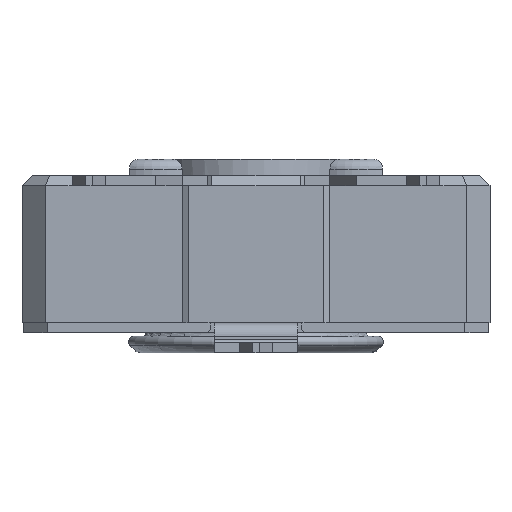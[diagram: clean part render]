
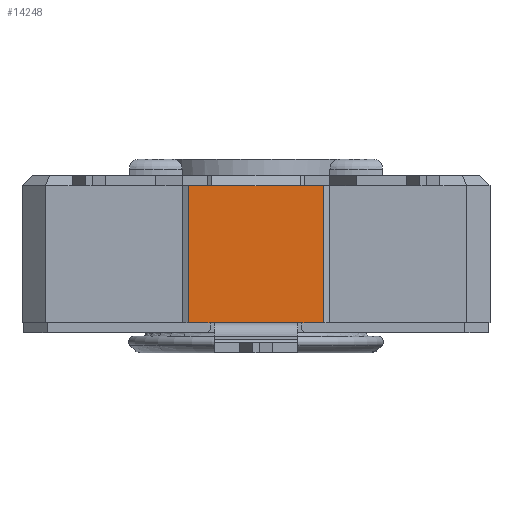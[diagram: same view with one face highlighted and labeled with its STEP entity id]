
A CAD part, front view. The second image highlights one B-rep face of the part: STEP entity #14248.
In plain terms, the highlighted planar face has unit normal (0, -1, 0).
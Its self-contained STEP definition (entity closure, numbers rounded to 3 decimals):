
#1292=FACE_OUTER_BOUND('',#2027,.T.);
#2027=EDGE_LOOP('',(#12179,#12180,#12181,#12182,#12183,#12184,#12185,#12186));
#2325=LINE('',#19730,#3881);
#2523=LINE('',#20526,#4079);
#2909=LINE('',#21491,#4465);
#2919=LINE('',#21514,#4475);
#3207=LINE('',#22433,#4763);
#3528=LINE('',#23132,#5084);
#3577=LINE('',#23234,#5133);
#3579=LINE('',#23237,#5135);
#3881=VECTOR('',#15984,10.);
#4079=VECTOR('',#16590,10.);
#4465=VECTOR('',#17292,10.);
#4475=VECTOR('',#17306,10.);
#4763=VECTOR('',#18034,10.);
#5084=VECTOR('',#18705,10.);
#5133=VECTOR('',#18852,10.);
#5135=VECTOR('',#18856,10.);
#5407=VERTEX_POINT('',#19727);
#5408=VERTEX_POINT('',#19729);
#5627=VERTEX_POINT('',#20524);
#5628=VERTEX_POINT('',#20525);
#5941=VERTEX_POINT('',#21489);
#5952=VERTEX_POINT('',#21513);
#6223=VERTEX_POINT('',#22432);
#6410=VERTEX_POINT('',#23131);
#6783=EDGE_CURVE('',#5408,#5407,#2325,.T.);
#7106=EDGE_CURVE('',#5627,#5628,#2523,.T.);
#7549=EDGE_CURVE('',#5941,#5627,#2909,.T.);
#7560=EDGE_CURVE('',#5628,#5952,#2919,.T.);
#7957=EDGE_CURVE('',#5408,#6223,#3207,.T.);
#8302=EDGE_CURVE('',#6410,#6223,#3528,.T.);
#8352=EDGE_CURVE('',#5941,#6410,#3577,.T.);
#8354=EDGE_CURVE('',#5952,#5407,#3579,.T.);
#12179=ORIENTED_EDGE('',*,*,#7957,.F.);
#12180=ORIENTED_EDGE('',*,*,#6783,.T.);
#12181=ORIENTED_EDGE('',*,*,#8354,.F.);
#12182=ORIENTED_EDGE('',*,*,#7560,.F.);
#12183=ORIENTED_EDGE('',*,*,#7106,.F.);
#12184=ORIENTED_EDGE('',*,*,#7549,.F.);
#12185=ORIENTED_EDGE('',*,*,#8352,.T.);
#12186=ORIENTED_EDGE('',*,*,#8302,.T.);
#12858=PLANE('',#15300);
#14248=ADVANCED_FACE('',(#1292),#12858,.T.);
#15300=AXIS2_PLACEMENT_3D('',#23236,#18854,#18855);
#15984=DIRECTION('',(-1.,0.,0.));
#16590=DIRECTION('',(-1.,0.,0.));
#17292=DIRECTION('',(-1.,0.,0.));
#17306=DIRECTION('',(-1.,0.,0.));
#18034=DIRECTION('',(1.,0.,0.));
#18705=DIRECTION('',(-1.,0.,0.));
#18852=DIRECTION('',(0.,0.,1.));
#18854=DIRECTION('center_axis',(0.,-1.,0.));
#18855=DIRECTION('ref_axis',(0.,0.,-1.));
#18856=DIRECTION('',(0.,0.,1.));
#19727=CARTESIAN_POINT('',(-2.027,-7.05,1.875));
#19729=CARTESIAN_POINT('',(-1.325,-7.05,1.875));
#19730=CARTESIAN_POINT('',(-0.913,-7.05,1.875));
#20524=CARTESIAN_POINT('',(1.25,-7.05,-2.225));
#20525=CARTESIAN_POINT('',(-1.25,-7.05,-2.225));
#20526=CARTESIAN_POINT('',(2.027,-7.05,-2.225));
#21489=CARTESIAN_POINT('',(2.027,-7.05,-2.225));
#21491=CARTESIAN_POINT('',(2.027,-7.05,-2.225));
#21513=CARTESIAN_POINT('',(-2.027,-7.05,-2.225));
#21514=CARTESIAN_POINT('',(2.027,-7.05,-2.225));
#22432=CARTESIAN_POINT('',(1.325,-7.05,1.875));
#22433=CARTESIAN_POINT('',(1.013,-7.05,1.875));
#23131=CARTESIAN_POINT('',(2.027,-7.05,1.875));
#23132=CARTESIAN_POINT('',(2.936,-7.05,1.875));
#23234=CARTESIAN_POINT('',(2.027,-7.05,-2.225));
#23236=CARTESIAN_POINT('Origin',(2.027,-7.05,-2.225));
#23237=CARTESIAN_POINT('',(-2.027,-7.05,-2.225));
